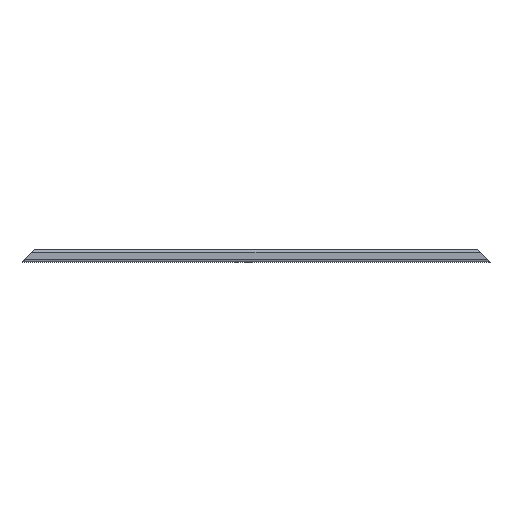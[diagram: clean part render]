
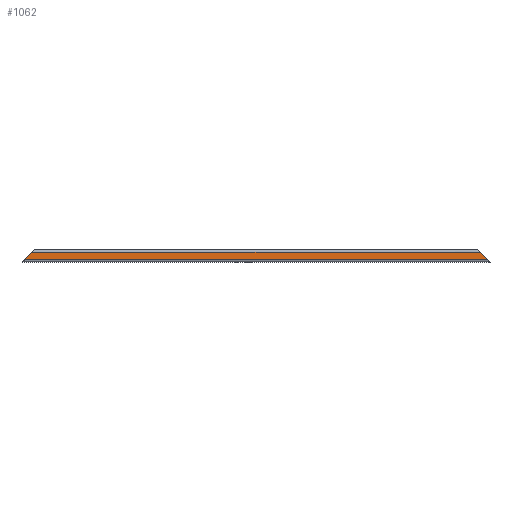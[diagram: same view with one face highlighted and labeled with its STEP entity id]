
A CAD part, front view. The second image highlights one B-rep face of the part: STEP entity #1062.
In plain terms, the highlighted planar face has unit normal (0, -1, 0).
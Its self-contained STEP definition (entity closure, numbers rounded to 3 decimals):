
#44 = CYLINDRICAL_SURFACE('',#45,16.);
#45 = AXIS2_PLACEMENT_3D('',#46,#47,#48);
#46 = CARTESIAN_POINT('',(9040.8,-24.,-64.));
#47 = DIRECTION('',(1.,0.,0.));
#48 = DIRECTION('',(0.,1.,0.));
#71 = PLANE('',#72);
#72 = AXIS2_PLACEMENT_3D('',#73,#74,#75);
#73 = CARTESIAN_POINT('',(8920.,40.,0.));
#74 = DIRECTION('',(0.707,0.,0.707));
#75 = DIRECTION('',(0.,1.,0.));
#124 = PLANE('',#125);
#125 = AXIS2_PLACEMENT_3D('',#126,#127,#128);
#126 = CARTESIAN_POINT('',(6000.,-40.,-80.));
#127 = DIRECTION('',(-0.707,0.,0.707));
#128 = DIRECTION('',(0.,1.,0.));
#140 = VERTEX_POINT('',#141);
#141 = CARTESIAN_POINT('',(8984.,-40.,-64.));
#169 = EDGE_CURVE('',#140,#170,#172,.T.);
#170 = VERTEX_POINT('',#171);
#171 = CARTESIAN_POINT('',(6016.,-40.,-64.));
#172 = SURFACE_CURVE('',#173,(#177,#183),.PCURVE_S1.);
#173 = LINE('',#174,#175);
#174 = CARTESIAN_POINT('',(9040.8,-40.,-64.));
#175 = VECTOR('',#176,1.);
#176 = DIRECTION('',(-1.,0.,0.));
#177 = PCURVE('',#44,#178);
#178 = DEFINITIONAL_REPRESENTATION('',(#179),#182);
#179 = B_SPLINE_CURVE_WITH_KNOTS('',1,(#180,#181),.UNSPECIFIED.,.F.,.F.,
  (2,2),(56.8,3024.8),.PIECEWISE_BEZIER_KNOTS.);
#180 = CARTESIAN_POINT('',(3.142,-56.8));
#181 = CARTESIAN_POINT('',(3.142,-3024.8));
#182 = ( GEOMETRIC_REPRESENTATION_CONTEXT(2) 
PARAMETRIC_REPRESENTATION_CONTEXT() REPRESENTATION_CONTEXT('2D SPACE',''
  ) );
#183 = PCURVE('',#184,#189);
#184 = PLANE('',#185);
#185 = AXIS2_PLACEMENT_3D('',#186,#187,#188);
#186 = CARTESIAN_POINT('',(9040.8,-40.,-64.));
#187 = DIRECTION('',(0.,1.,0.));
#188 = DIRECTION('',(0.,0.,1.));
#189 = DEFINITIONAL_REPRESENTATION('',(#190),#194);
#190 = LINE('',#191,#192);
#191 = CARTESIAN_POINT('',(0.,0.));
#192 = VECTOR('',#193,1.);
#193 = DIRECTION('',(0.,-1.));
#194 = ( GEOMETRIC_REPRESENTATION_CONTEXT(2) 
PARAMETRIC_REPRESENTATION_CONTEXT() REPRESENTATION_CONTEXT('2D SPACE',''
  ) );
#260 = EDGE_CURVE('',#170,#261,#263,.T.);
#261 = VERTEX_POINT('',#262);
#262 = CARTESIAN_POINT('',(6064.,-40.,-16.));
#263 = SURFACE_CURVE('',#264,(#268,#275),.PCURVE_S1.);
#264 = LINE('',#265,#266);
#265 = CARTESIAN_POINT('',(6764.2,-40.,684.2));
#266 = VECTOR('',#267,1.);
#267 = DIRECTION('',(0.707,0.,0.707));
#268 = PCURVE('',#124,#269);
#269 = DEFINITIONAL_REPRESENTATION('',(#270),#274);
#270 = LINE('',#271,#272);
#271 = CARTESIAN_POINT('',(0.,-1080.742));
#272 = VECTOR('',#273,1.);
#273 = DIRECTION('',(0.,-1.));
#274 = ( GEOMETRIC_REPRESENTATION_CONTEXT(2) 
PARAMETRIC_REPRESENTATION_CONTEXT() REPRESENTATION_CONTEXT('2D SPACE',''
  ) );
#275 = PCURVE('',#184,#276);
#276 = DEFINITIONAL_REPRESENTATION('',(#277),#281);
#277 = LINE('',#278,#279);
#278 = CARTESIAN_POINT('',(748.2,-2276.6));
#279 = VECTOR('',#280,1.);
#280 = DIRECTION('',(0.707,0.707));
#281 = ( GEOMETRIC_REPRESENTATION_CONTEXT(2) 
PARAMETRIC_REPRESENTATION_CONTEXT() REPRESENTATION_CONTEXT('2D SPACE',''
  ) );
#300 = CYLINDRICAL_SURFACE('',#301,16.);
#301 = AXIS2_PLACEMENT_3D('',#302,#303,#304);
#302 = CARTESIAN_POINT('',(9040.8,-24.,-16.));
#303 = DIRECTION('',(1.,0.,0.));
#304 = DIRECTION('',(0.,1.,0.));
#799 = VERTEX_POINT('',#800);
#800 = CARTESIAN_POINT('',(8936.,-40.,-16.));
#828 = EDGE_CURVE('',#799,#140,#829,.T.);
#829 = SURFACE_CURVE('',#830,(#834,#841),.PCURVE_S1.);
#830 = LINE('',#831,#832);
#831 = CARTESIAN_POINT('',(8966.2,-40.,-46.2));
#832 = VECTOR('',#833,1.);
#833 = DIRECTION('',(0.707,0.,-0.707));
#834 = PCURVE('',#71,#835);
#835 = DEFINITIONAL_REPRESENTATION('',(#836),#840);
#836 = LINE('',#837,#838);
#837 = CARTESIAN_POINT('',(-80.,-65.337));
#838 = VECTOR('',#839,1.);
#839 = DIRECTION('',(0.,-1.));
#840 = ( GEOMETRIC_REPRESENTATION_CONTEXT(2) 
PARAMETRIC_REPRESENTATION_CONTEXT() REPRESENTATION_CONTEXT('2D SPACE',''
  ) );
#841 = PCURVE('',#184,#842);
#842 = DEFINITIONAL_REPRESENTATION('',(#843),#847);
#843 = LINE('',#844,#845);
#844 = CARTESIAN_POINT('',(17.8,-74.6));
#845 = VECTOR('',#846,1.);
#846 = DIRECTION('',(-0.707,0.707));
#847 = ( GEOMETRIC_REPRESENTATION_CONTEXT(2) 
PARAMETRIC_REPRESENTATION_CONTEXT() REPRESENTATION_CONTEXT('2D SPACE',''
  ) );
#1062 = ADVANCED_FACE('',(#1063),#184,.F.);
#1063 = FACE_BOUND('',#1064,.F.);
#1064 = EDGE_LOOP('',(#1065,#1085,#1086,#1087));
#1065 = ORIENTED_EDGE('',*,*,#1066,.F.);
#1066 = EDGE_CURVE('',#799,#261,#1067,.T.);
#1067 = SURFACE_CURVE('',#1068,(#1072,#1079),.PCURVE_S1.);
#1068 = LINE('',#1069,#1070);
#1069 = CARTESIAN_POINT('',(9040.8,-40.,-16.));
#1070 = VECTOR('',#1071,1.);
#1071 = DIRECTION('',(-1.,0.,0.));
#1072 = PCURVE('',#184,#1073);
#1073 = DEFINITIONAL_REPRESENTATION('',(#1074),#1078);
#1074 = LINE('',#1075,#1076);
#1075 = CARTESIAN_POINT('',(48.,0.));
#1076 = VECTOR('',#1077,1.);
#1077 = DIRECTION('',(0.,-1.));
#1078 = ( GEOMETRIC_REPRESENTATION_CONTEXT(2) 
PARAMETRIC_REPRESENTATION_CONTEXT() REPRESENTATION_CONTEXT('2D SPACE',''
  ) );
#1079 = PCURVE('',#300,#1080);
#1080 = DEFINITIONAL_REPRESENTATION('',(#1081),#1084);
#1081 = B_SPLINE_CURVE_WITH_KNOTS('',1,(#1082,#1083),.UNSPECIFIED.,.F.,
  .F.,(2,2),(104.8,2976.8),.PIECEWISE_BEZIER_KNOTS.);
#1082 = CARTESIAN_POINT('',(3.142,-104.8));
#1083 = CARTESIAN_POINT('',(3.142,-2976.8));
#1084 = ( GEOMETRIC_REPRESENTATION_CONTEXT(2) 
PARAMETRIC_REPRESENTATION_CONTEXT() REPRESENTATION_CONTEXT('2D SPACE',''
  ) );
#1085 = ORIENTED_EDGE('',*,*,#828,.T.);
#1086 = ORIENTED_EDGE('',*,*,#169,.T.);
#1087 = ORIENTED_EDGE('',*,*,#260,.T.);
